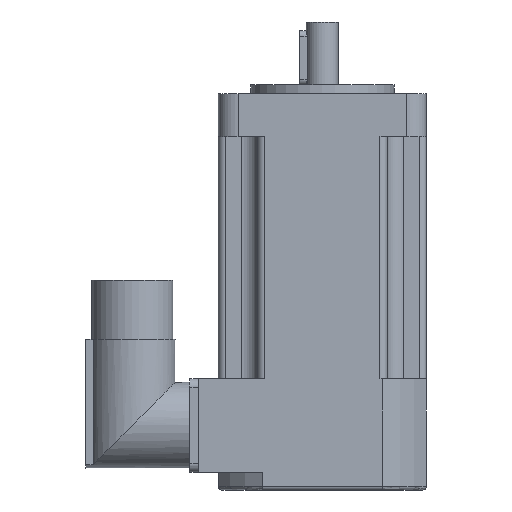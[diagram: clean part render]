
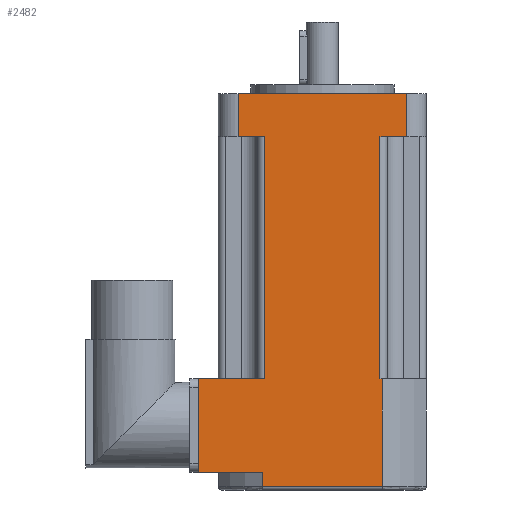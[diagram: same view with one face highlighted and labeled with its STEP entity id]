
A CAD part, left-side view. The second image highlights one B-rep face of the part: STEP entity #2482.
In plain terms, the highlighted planar face has unit normal (-1, 0, 0).
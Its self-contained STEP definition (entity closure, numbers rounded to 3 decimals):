
#99=LINE('',#3835,#320);
#122=LINE('',#3903,#343);
#138=LINE('',#3952,#359);
#139=LINE('',#3955,#360);
#142=LINE('',#3961,#363);
#165=LINE('',#4021,#386);
#166=LINE('',#4026,#387);
#188=LINE('',#4075,#409);
#191=LINE('',#4084,#412);
#199=LINE('',#4220,#420);
#201=LINE('',#4242,#422);
#203=LINE('',#4247,#424);
#204=LINE('',#4249,#425);
#205=LINE('',#4250,#426);
#320=VECTOR('',#3044,7.425);
#343=VECTOR('',#3107,7.425);
#359=VECTOR('',#3163,12.);
#360=VECTOR('',#3166,12.);
#363=VECTOR('',#3173,47.);
#386=VECTOR('',#3238,67.5);
#387=VECTOR('',#3243,67.5);
#409=VECTOR('',#3287,18.425);
#412=VECTOR('',#3296,0.696);
#420=VECTOR('',#3332,33.541);
#422=VECTOR('',#3342,4.);
#424=VECTOR('',#3348,30.);
#425=VECTOR('',#3349,26.);
#426=VECTOR('',#3350,17.729);
#525=PLANE('',#2718);
#733=FACE_OUTER_BOUND('',#889,.T.);
#889=EDGE_LOOP('',(#2153,#2154,#2155,#2156,#2157,#2158,#2159,#2160,#2161,
#2162,#2163,#2164,#2165,#2166));
#1149=VERTEX_POINT('',#3832);
#1150=VERTEX_POINT('',#3834);
#1174=VERTEX_POINT('',#3900);
#1175=VERTEX_POINT('',#3902);
#1188=VERTEX_POINT('',#3950);
#1189=VERTEX_POINT('',#3954);
#1206=VERTEX_POINT('',#4019);
#1207=VERTEX_POINT('',#4023);
#1224=VERTEX_POINT('',#4073);
#1227=VERTEX_POINT('',#4083);
#1241=VERTEX_POINT('',#4200);
#1243=VERTEX_POINT('',#4219);
#1245=VERTEX_POINT('',#4241);
#1247=VERTEX_POINT('',#4248);
#1418=EDGE_CURVE('',#1150,#1149,#99,.T.);
#1452=EDGE_CURVE('',#1175,#1174,#122,.T.);
#1477=EDGE_CURVE('',#1149,#1188,#138,.T.);
#1478=EDGE_CURVE('',#1175,#1189,#139,.T.);
#1482=EDGE_CURVE('',#1189,#1188,#142,.T.);
#1513=EDGE_CURVE('',#1206,#1150,#165,.T.);
#1515=EDGE_CURVE('',#1207,#1174,#166,.T.);
#1540=EDGE_CURVE('',#1224,#1207,#188,.T.);
#1544=EDGE_CURVE('',#1206,#1227,#191,.T.);
#1566=EDGE_CURVE('',#1243,#1241,#199,.T.);
#1571=EDGE_CURVE('',#1245,#1241,#201,.T.);
#1574=EDGE_CURVE('',#1243,#1227,#203,.T.);
#1575=EDGE_CURVE('',#1224,#1247,#204,.T.);
#1576=EDGE_CURVE('',#1245,#1247,#205,.T.);
#2153=ORIENTED_EDGE('',*,*,#1566,.F.);
#2154=ORIENTED_EDGE('',*,*,#1574,.T.);
#2155=ORIENTED_EDGE('',*,*,#1544,.F.);
#2156=ORIENTED_EDGE('',*,*,#1513,.T.);
#2157=ORIENTED_EDGE('',*,*,#1418,.T.);
#2158=ORIENTED_EDGE('',*,*,#1477,.T.);
#2159=ORIENTED_EDGE('',*,*,#1482,.F.);
#2160=ORIENTED_EDGE('',*,*,#1478,.F.);
#2161=ORIENTED_EDGE('',*,*,#1452,.T.);
#2162=ORIENTED_EDGE('',*,*,#1515,.F.);
#2163=ORIENTED_EDGE('',*,*,#1540,.F.);
#2164=ORIENTED_EDGE('',*,*,#1575,.T.);
#2165=ORIENTED_EDGE('',*,*,#1576,.F.);
#2166=ORIENTED_EDGE('',*,*,#1571,.T.);
#2482=ADVANCED_FACE('',(#733),#525,.T.);
#2718=AXIS2_PLACEMENT_3D('',#4246,#3346,#3347);
#3044=DIRECTION('',(0.,-1.,0.));
#3107=DIRECTION('',(0.,-1.,0.));
#3163=DIRECTION('',(0.,0.,1.));
#3166=DIRECTION('',(0.,0.,1.));
#3173=DIRECTION('',(0.,-1.,0.));
#3238=DIRECTION('',(0.,0.,1.));
#3243=DIRECTION('',(0.,0.,1.));
#3287=DIRECTION('',(0.,-1.,0.));
#3296=DIRECTION('',(0.,-1.,0.));
#3332=DIRECTION('',(0.,1.,0.));
#3342=DIRECTION('',(0.,0.,-1.));
#3346=DIRECTION('center_axis',(-1.,0.,0.));
#3347=DIRECTION('ref_axis',(0.,-1.,0.));
#3348=DIRECTION('',(0.,0.,1.));
#3349=DIRECTION('',(0.,0.,-1.));
#3350=DIRECTION('',(0.,1.,0.));
#3832=CARTESIAN_POINT('',(-29.,-23.5,80.5));
#3834=CARTESIAN_POINT('',(-29.,-16.075,80.5));
#3835=CARTESIAN_POINT('',(-29.,23.5,80.5));
#3900=CARTESIAN_POINT('',(-29.,16.075,80.5));
#3902=CARTESIAN_POINT('',(-29.,23.5,80.5));
#3903=CARTESIAN_POINT('',(-29.,23.5,80.5));
#3950=CARTESIAN_POINT('',(-29.,-23.5,92.5));
#3952=CARTESIAN_POINT('',(-29.,-23.5,80.5));
#3954=CARTESIAN_POINT('',(-29.,23.5,92.5));
#3955=CARTESIAN_POINT('',(-29.,23.5,80.5));
#3961=CARTESIAN_POINT('',(-29.,23.5,92.5));
#4019=CARTESIAN_POINT('',(-29.,-16.075,13.));
#4021=CARTESIAN_POINT('',(-29.,-16.075,13.));
#4023=CARTESIAN_POINT('',(-29.,16.075,13.));
#4026=CARTESIAN_POINT('',(-29.,16.075,13.));
#4073=CARTESIAN_POINT('',(-29.,34.5,13.));
#4075=CARTESIAN_POINT('',(-29.,34.5,13.));
#4083=CARTESIAN_POINT('',(-29.,-16.771,13.));
#4084=CARTESIAN_POINT('',(-29.,34.5,13.));
#4200=CARTESIAN_POINT('',(-29.,16.771,-17.));
#4219=CARTESIAN_POINT('',(-29.,-16.771,-17.));
#4220=CARTESIAN_POINT('',(-29.,17.25,-17.));
#4241=CARTESIAN_POINT('',(-29.,16.771,-13.));
#4242=CARTESIAN_POINT('',(-29.,16.771,-13.));
#4246=CARTESIAN_POINT('Origin',(-29.,34.5,0.));
#4247=CARTESIAN_POINT('',(-29.,-16.771,0.));
#4248=CARTESIAN_POINT('',(-29.,34.5,-13.));
#4249=CARTESIAN_POINT('',(-29.,34.5,0.));
#4250=CARTESIAN_POINT('',(-29.,34.5,-13.));
